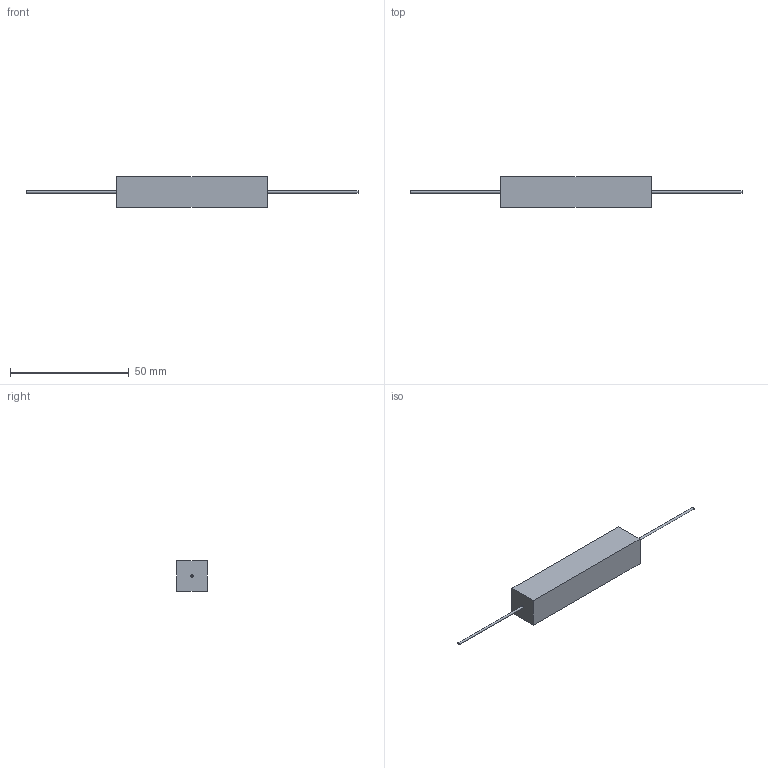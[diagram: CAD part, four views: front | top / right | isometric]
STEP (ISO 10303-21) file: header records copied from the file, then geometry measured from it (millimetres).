
FILE_DESCRIPTION(/* description */ (''),/* implementation_level */ '2;1');
FILE_NAME(/* name */ 'C:\Users\mulla\Documents\SEI Models\Inventor Files\WCB_WCBF_NWCB\WCB20_stp.stp',/* time_stamp */ '2019-07-04T17:06:05-04:00',/* author */ ('mulla'),/* organization */ (''),/* preprocessor_version */ 'ST-DEVELOPER v16.1',/* originating_system */ 'Autodesk Inventor 2016',/* authorisation */ '');
FILE_SCHEMA (('AUTOMOTIVE_DESIGN { 1 0 10303 214 3 1 1 }'));
Length unit declared in the file: millimetre
Products named in the file (1): WCB20
Bounding box: 139.7 x 12.7 x 12.7 mm (x, y, z)
Volume: 10291.5 mm3; surface area: 3768.8 mm2
Topology: 3 solids, 3 shells, 12 faces, 18 edges, 12 vertices
Faces by surface type: plane 10, cylinder 2
Full cylindrical faces by diameter (mm): 0.91 x2
Entity records: 304 total; most frequent: DIRECTION 46, CARTESIAN_POINT 41, ORIENTED_EDGE 32, AXIS2_PLACEMENT_3D 17, EDGE_CURVE 16, STYLED_ITEM 15, EDGE_LOOP 14, FACE_OUTER_BOUND 12
